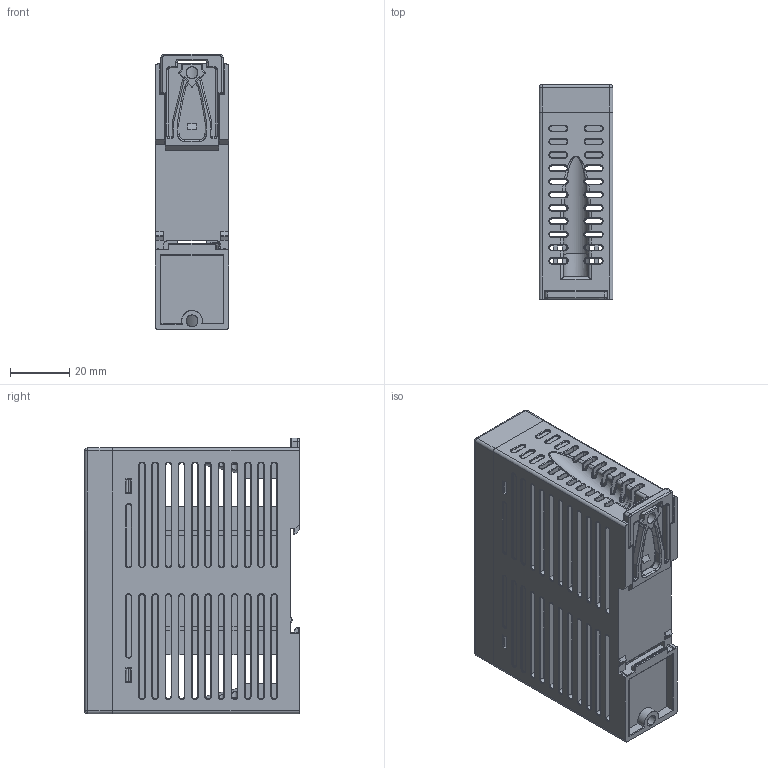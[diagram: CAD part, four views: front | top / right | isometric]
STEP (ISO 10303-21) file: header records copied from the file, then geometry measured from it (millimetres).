
FILE_DESCRIPTION(/* description */ (''),/* implementation_level */ '2;1');
FILE_NAME(/* name */ 'FBs-CM22',/* time_stamp */ '2021-06-10T11:15:46+08:00',/* author */ (''),/* organization */ (''),/* preprocessor_version */ 'ST-DEVELOPER v16.5',/* originating_system */ '',/* authorisation */ '');
FILE_SCHEMA (('CONFIG_CONTROL_DESIGN'));
Products named in the file (3): Document; JOIN; Block 01
Assembly tree (2 placements, depth 3):
  Document
    JOIN
      Block 01
Bounding box: 25 x 72.7 x 93.25 mm (x, y, z)
Surface area: 42696.4 mm2 (no closed solid volume)
Topology: 0 solids, 1595 shells, 1595 faces, 8528 edges, 8526 vertices
Faces by surface type: plane 624, cylinder 618, bspline 353
Entity records: 106742 total; most frequent: CARTESIAN_POINT 63132, ORIENTED_EDGE 8528, EDGE_CURVE 8528, VERTEX_POINT 8526, B_SPLINE_CURVE_WITH_KNOTS 5839, EDGE_LOOP 1695, SHELL_BASED_SURFACE_MODEL 1595, OPEN_SHELL 1595
